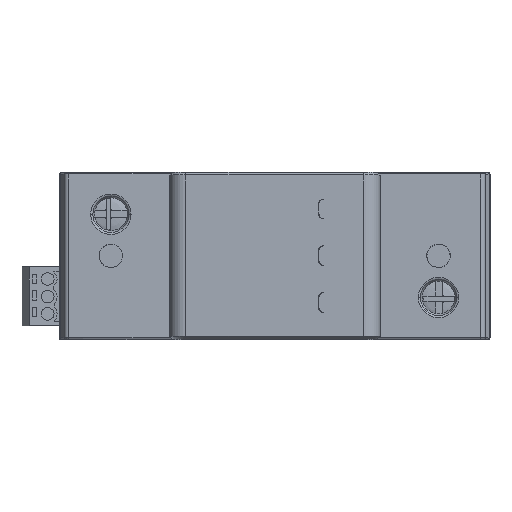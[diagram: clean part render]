
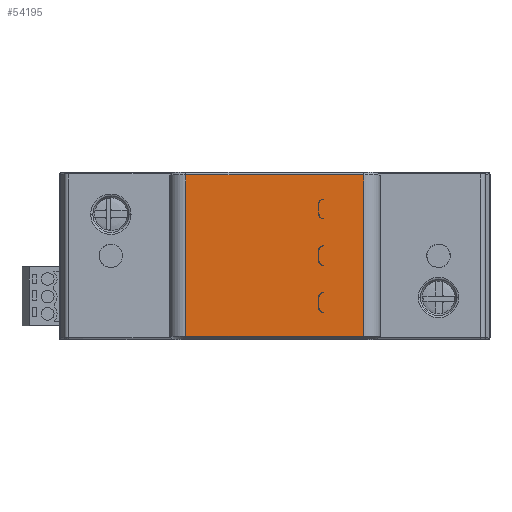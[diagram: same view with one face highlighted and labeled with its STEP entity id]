
A CAD part, top view. The second image highlights one B-rep face of the part: STEP entity #54195.
In plain terms, the highlighted planar face has unit normal (0, 0, 1).
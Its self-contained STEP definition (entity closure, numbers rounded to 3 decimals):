
#6099=DIRECTION('',(1.,0.,0.));
#6100=VECTOR('',#6099,38.);
#6101=CARTESIAN_POINT('',(26.,35.05,31.2));
#6102=LINE('',#6101,#6100);
#6244=DIRECTION('',(0.,-1.,0.));
#6245=VECTOR('',#6244,34.5);
#6246=CARTESIAN_POINT('',(64.,35.05,31.2));
#6247=LINE('',#6246,#6245);
#6265=DIRECTION('',(-1.,0.,0.));
#6266=VECTOR('',#6265,38.);
#6267=CARTESIAN_POINT('',(64.,0.55,31.2));
#6268=LINE('',#6267,#6266);
#6282=DIRECTION('',(0.,1.,0.));
#6283=VECTOR('',#6282,34.5);
#6284=CARTESIAN_POINT('',(26.,0.55,31.2));
#6285=LINE('',#6284,#6283);
#6290=CARTESIAN_POINT('',(55.45,6.7,31.2));
#6291=DIRECTION('',(0.,0.,1.));
#6292=DIRECTION('',(-1.,0.,0.));
#6293=AXIS2_PLACEMENT_3D('',#6290,#6291,#6292);
#6295=DIRECTION('',(0.,-1.,0.));
#6296=VECTOR('',#6295,2.2);
#6297=CARTESIAN_POINT('',(54.45,8.9,31.2));
#6298=LINE('',#6297,#6296);
#6299=CARTESIAN_POINT('',(55.45,8.9,31.2));
#6300=DIRECTION('',(0.,0.,1.));
#6301=DIRECTION('',(0.,1.,0.));
#6302=AXIS2_PLACEMENT_3D('',#6299,#6300,#6301);
#6304=CARTESIAN_POINT('',(55.4,8.9,31.2));
#6305=DIRECTION('',(0.,0.,-1.));
#6306=DIRECTION('',(-1.,0.,0.));
#6307=AXIS2_PLACEMENT_3D('',#6304,#6305,#6306);
#6309=CARTESIAN_POINT('',(55.4,6.7,31.2));
#6310=DIRECTION('',(0.,0.,-1.));
#6311=DIRECTION('',(0.,-1.,0.));
#6312=AXIS2_PLACEMENT_3D('',#6309,#6310,#6311);
#6314=CARTESIAN_POINT('',(55.45,16.7,31.2));
#6315=DIRECTION('',(0.,0.,1.));
#6316=DIRECTION('',(-1.,0.,0.));
#6317=AXIS2_PLACEMENT_3D('',#6314,#6315,#6316);
#6319=DIRECTION('',(0.,-1.,0.));
#6320=VECTOR('',#6319,2.2);
#6321=CARTESIAN_POINT('',(54.45,18.9,31.2));
#6322=LINE('',#6321,#6320);
#6323=CARTESIAN_POINT('',(55.45,18.9,31.2));
#6324=DIRECTION('',(0.,0.,1.));
#6325=DIRECTION('',(0.,1.,0.));
#6326=AXIS2_PLACEMENT_3D('',#6323,#6324,#6325);
#6328=CARTESIAN_POINT('',(55.4,18.9,31.2));
#6329=DIRECTION('',(0.,0.,-1.));
#6330=DIRECTION('',(-1.,0.,0.));
#6331=AXIS2_PLACEMENT_3D('',#6328,#6329,#6330);
#6333=CARTESIAN_POINT('',(55.4,16.7,31.2));
#6334=DIRECTION('',(0.,0.,-1.));
#6335=DIRECTION('',(0.,-1.,0.));
#6336=AXIS2_PLACEMENT_3D('',#6333,#6334,#6335);
#6338=CARTESIAN_POINT('',(55.45,26.7,31.2));
#6339=DIRECTION('',(0.,0.,1.));
#6340=DIRECTION('',(-1.,0.,0.));
#6341=AXIS2_PLACEMENT_3D('',#6338,#6339,#6340);
#6343=DIRECTION('',(0.,-1.,0.));
#6344=VECTOR('',#6343,2.2);
#6345=CARTESIAN_POINT('',(54.45,28.9,31.2));
#6346=LINE('',#6345,#6344);
#6347=CARTESIAN_POINT('',(55.45,28.9,31.2));
#6348=DIRECTION('',(0.,0.,1.));
#6349=DIRECTION('',(0.,1.,0.));
#6350=AXIS2_PLACEMENT_3D('',#6347,#6348,#6349);
#6352=CARTESIAN_POINT('',(55.4,28.9,31.2));
#6353=DIRECTION('',(0.,0.,-1.));
#6354=DIRECTION('',(-1.,0.,0.));
#6355=AXIS2_PLACEMENT_3D('',#6352,#6353,#6354);
#6357=CARTESIAN_POINT('',(55.4,26.7,31.2));
#6358=DIRECTION('',(0.,0.,-1.));
#6359=DIRECTION('',(0.,-1.,0.));
#6360=AXIS2_PLACEMENT_3D('',#6357,#6358,#6359);
#6366=DIRECTION('',(1.,0.,0.));
#6367=VECTOR('',#6366,0.05);
#6368=CARTESIAN_POINT('',(55.4,5.7,31.2));
#6369=LINE('',#6368,#6367);
#16736=DIRECTION('',(0.,-1.,0.));
#16737=VECTOR('',#16736,2.2);
#16738=CARTESIAN_POINT('',(54.4,18.9,31.2));
#16739=LINE('',#16738,#16737);
#16757=DIRECTION('',(1.,0.,0.));
#16758=VECTOR('',#16757,0.05);
#16759=CARTESIAN_POINT('',(55.4,15.7,31.2));
#16760=LINE('',#16759,#16758);
#16803=DIRECTION('',(-1.,0.,0.));
#16804=VECTOR('',#16803,0.05);
#16805=CARTESIAN_POINT('',(55.45,19.9,31.2));
#16806=LINE('',#16805,#16804);
#17012=DIRECTION('',(0.,-1.,0.));
#17013=VECTOR('',#17012,2.2);
#17014=CARTESIAN_POINT('',(54.4,28.9,31.2));
#17015=LINE('',#17014,#17013);
#17033=DIRECTION('',(1.,0.,0.));
#17034=VECTOR('',#17033,0.05);
#17035=CARTESIAN_POINT('',(55.4,25.7,31.2));
#17036=LINE('',#17035,#17034);
#17079=DIRECTION('',(-1.,0.,0.));
#17080=VECTOR('',#17079,0.05);
#17081=CARTESIAN_POINT('',(55.45,29.9,31.2));
#17082=LINE('',#17081,#17080);
#17289=DIRECTION('',(0.,-1.,0.));
#17290=VECTOR('',#17289,2.2);
#17291=CARTESIAN_POINT('',(54.4,8.9,31.2));
#17292=LINE('',#17291,#17290);
#17314=DIRECTION('',(-1.,0.,0.));
#17315=VECTOR('',#17314,0.05);
#17316=CARTESIAN_POINT('',(55.45,9.9,31.2));
#17317=LINE('',#17316,#17315);
#44401=CARTESIAN_POINT('',(55.4,15.7,31.2));
#44402=CARTESIAN_POINT('',(54.4,16.7,31.2));
#44403=VERTEX_POINT('',#44401);
#44404=VERTEX_POINT('',#44402);
#44405=CARTESIAN_POINT('',(54.4,18.9,31.2));
#44406=VERTEX_POINT('',#44405);
#44407=CARTESIAN_POINT('',(55.4,19.9,31.2));
#44408=VERTEX_POINT('',#44407);
#44409=CARTESIAN_POINT('',(55.4,25.7,31.2));
#44410=CARTESIAN_POINT('',(54.4,26.7,31.2));
#44411=VERTEX_POINT('',#44409);
#44412=VERTEX_POINT('',#44410);
#44413=CARTESIAN_POINT('',(54.4,28.9,31.2));
#44414=VERTEX_POINT('',#44413);
#44415=CARTESIAN_POINT('',(55.4,29.9,31.2));
#44416=VERTEX_POINT('',#44415);
#44417=CARTESIAN_POINT('',(55.4,5.7,31.2));
#44418=CARTESIAN_POINT('',(54.4,6.7,31.2));
#44419=VERTEX_POINT('',#44417);
#44420=VERTEX_POINT('',#44418);
#44421=CARTESIAN_POINT('',(54.4,8.9,31.2));
#44422=VERTEX_POINT('',#44421);
#44423=CARTESIAN_POINT('',(55.4,9.9,31.2));
#44424=VERTEX_POINT('',#44423);
#44425=CARTESIAN_POINT('',(64.,35.05,31.2));
#44426=CARTESIAN_POINT('',(64.,0.55,31.2));
#44427=VERTEX_POINT('',#44425);
#44428=VERTEX_POINT('',#44426);
#44429=CARTESIAN_POINT('',(26.,35.05,31.2));
#44430=VERTEX_POINT('',#44429);
#44431=CARTESIAN_POINT('',(26.,0.55,31.2));
#44432=VERTEX_POINT('',#44431);
#46486=CARTESIAN_POINT('',(54.45,8.9,31.2));
#46487=CARTESIAN_POINT('',(54.45,6.7,31.2));
#46488=VERTEX_POINT('',#46486);
#46489=VERTEX_POINT('',#46487);
#46506=CARTESIAN_POINT('',(55.45,9.9,31.2));
#46507=VERTEX_POINT('',#46506);
#46508=CARTESIAN_POINT('',(55.45,5.7,31.2));
#46509=VERTEX_POINT('',#46508);
#46518=CARTESIAN_POINT('',(54.45,18.9,31.2));
#46519=CARTESIAN_POINT('',(54.45,16.7,31.2));
#46520=VERTEX_POINT('',#46518);
#46521=VERTEX_POINT('',#46519);
#46538=CARTESIAN_POINT('',(55.45,19.9,31.2));
#46539=VERTEX_POINT('',#46538);
#46540=CARTESIAN_POINT('',(55.45,15.7,31.2));
#46541=VERTEX_POINT('',#46540);
#46550=CARTESIAN_POINT('',(54.45,28.9,31.2));
#46551=CARTESIAN_POINT('',(54.45,26.7,31.2));
#46552=VERTEX_POINT('',#46550);
#46553=VERTEX_POINT('',#46551);
#46570=CARTESIAN_POINT('',(55.45,29.9,31.2));
#46571=VERTEX_POINT('',#46570);
#46572=CARTESIAN_POINT('',(55.45,25.7,31.2));
#46573=VERTEX_POINT('',#46572);
#54130=CARTESIAN_POINT('',(45.,17.8,31.2));
#54131=DIRECTION('',(0.,0.,1.));
#54132=DIRECTION('',(1.,0.,0.));
#54133=AXIS2_PLACEMENT_3D('',#54130,#54131,#54132);
#54134=PLANE('',#54133);
#54135=ORIENTED_EDGE('',*,*,#54070,.T.);
#54136=ORIENTED_EDGE('',*,*,#54098,.T.);
#54137=ORIENTED_EDGE('',*,*,#54121,.T.);
#54138=ORIENTED_EDGE('',*,*,#53903,.T.);
#54139=EDGE_LOOP('',(#54135,#54136,#54137,#54138));
#54140=FACE_OUTER_BOUND('',#54139,.F.);
#54142=ORIENTED_EDGE('',*,*,#54141,.T.);
#54144=ORIENTED_EDGE('',*,*,#54143,.F.);
#54146=ORIENTED_EDGE('',*,*,#54145,.F.);
#54148=ORIENTED_EDGE('',*,*,#54147,.F.);
#54150=ORIENTED_EDGE('',*,*,#54149,.T.);
#54152=ORIENTED_EDGE('',*,*,#54151,.F.);
#54154=ORIENTED_EDGE('',*,*,#54153,.T.);
#54156=ORIENTED_EDGE('',*,*,#54155,.F.);
#54157=EDGE_LOOP('',(#54142,#54144,#54146,#54148,#54150,#54152,#54154,#54156));
#54158=FACE_BOUND('',#54157,.F.);
#54160=ORIENTED_EDGE('',*,*,#54159,.T.);
#54162=ORIENTED_EDGE('',*,*,#54161,.F.);
#54164=ORIENTED_EDGE('',*,*,#54163,.F.);
#54166=ORIENTED_EDGE('',*,*,#54165,.F.);
#54168=ORIENTED_EDGE('',*,*,#54167,.T.);
#54170=ORIENTED_EDGE('',*,*,#54169,.F.);
#54172=ORIENTED_EDGE('',*,*,#54171,.T.);
#54174=ORIENTED_EDGE('',*,*,#54173,.F.);
#54175=EDGE_LOOP('',(#54160,#54162,#54164,#54166,#54168,#54170,#54172,#54174));
#54176=FACE_BOUND('',#54175,.F.);
#54178=ORIENTED_EDGE('',*,*,#54177,.T.);
#54180=ORIENTED_EDGE('',*,*,#54179,.F.);
#54182=ORIENTED_EDGE('',*,*,#54181,.F.);
#54184=ORIENTED_EDGE('',*,*,#54183,.F.);
#54186=ORIENTED_EDGE('',*,*,#54185,.T.);
#54188=ORIENTED_EDGE('',*,*,#54187,.F.);
#54190=ORIENTED_EDGE('',*,*,#54189,.T.);
#54192=ORIENTED_EDGE('',*,*,#54191,.F.);
#54193=EDGE_LOOP('',(#54178,#54180,#54182,#54184,#54186,#54188,#54190,#54192));
#54194=FACE_BOUND('',#54193,.F.);
#54195=ADVANCED_FACE('',(#54140,#54158,#54176,#54194),#54134,.T.);
#6294=CIRCLE('',#6293,1.);
#6303=CIRCLE('',#6302,1.);
#6308=CIRCLE('',#6307,1.);
#6313=CIRCLE('',#6312,1.);
#6318=CIRCLE('',#6317,1.);
#6327=CIRCLE('',#6326,1.);
#6332=CIRCLE('',#6331,1.);
#6337=CIRCLE('',#6336,1.);
#6342=CIRCLE('',#6341,1.);
#6351=CIRCLE('',#6350,1.);
#6356=CIRCLE('',#6355,1.);
#6361=CIRCLE('',#6360,1.);
#53903=EDGE_CURVE('',#44430,#44427,#6102,.T.);
#54070=EDGE_CURVE('',#44427,#44428,#6247,.T.);
#54098=EDGE_CURVE('',#44428,#44432,#6268,.T.);
#54121=EDGE_CURVE('',#44432,#44430,#6285,.T.);
#54141=EDGE_CURVE('',#44419,#46509,#6369,.T.);
#54143=EDGE_CURVE('',#46489,#46509,#6294,.T.);
#54145=EDGE_CURVE('',#46488,#46489,#6298,.T.);
#54147=EDGE_CURVE('',#46507,#46488,#6303,.T.);
#54149=EDGE_CURVE('',#46507,#44424,#17317,.T.);
#54151=EDGE_CURVE('',#44422,#44424,#6308,.T.);
#54153=EDGE_CURVE('',#44422,#44420,#17292,.T.);
#54155=EDGE_CURVE('',#44419,#44420,#6313,.T.);
#54159=EDGE_CURVE('',#44403,#46541,#16760,.T.);
#54161=EDGE_CURVE('',#46521,#46541,#6318,.T.);
#54163=EDGE_CURVE('',#46520,#46521,#6322,.T.);
#54165=EDGE_CURVE('',#46539,#46520,#6327,.T.);
#54167=EDGE_CURVE('',#46539,#44408,#16806,.T.);
#54169=EDGE_CURVE('',#44406,#44408,#6332,.T.);
#54171=EDGE_CURVE('',#44406,#44404,#16739,.T.);
#54173=EDGE_CURVE('',#44403,#44404,#6337,.T.);
#54177=EDGE_CURVE('',#44411,#46573,#17036,.T.);
#54179=EDGE_CURVE('',#46553,#46573,#6342,.T.);
#54181=EDGE_CURVE('',#46552,#46553,#6346,.T.);
#54183=EDGE_CURVE('',#46571,#46552,#6351,.T.);
#54185=EDGE_CURVE('',#46571,#44416,#17082,.T.);
#54187=EDGE_CURVE('',#44414,#44416,#6356,.T.);
#54189=EDGE_CURVE('',#44414,#44412,#17015,.T.);
#54191=EDGE_CURVE('',#44411,#44412,#6361,.T.);
